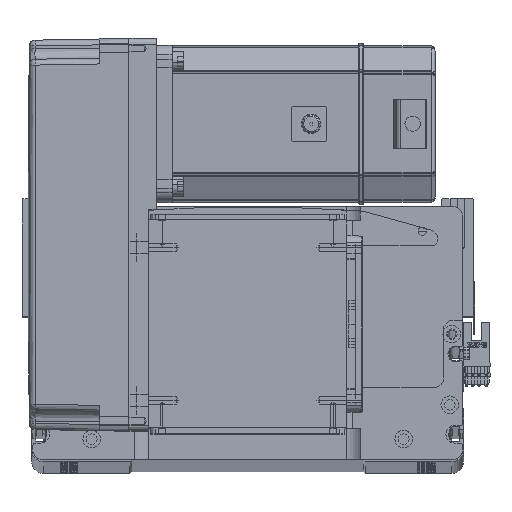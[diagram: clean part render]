
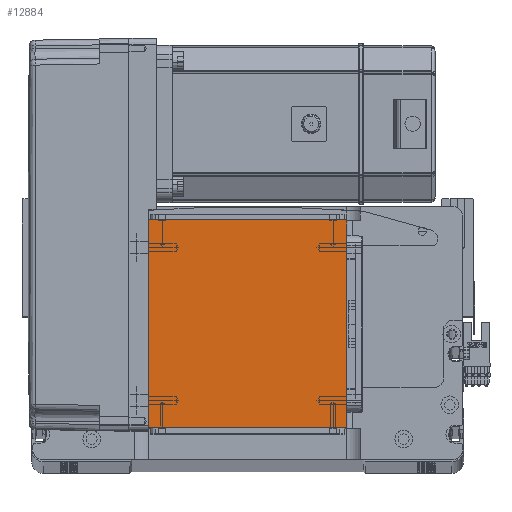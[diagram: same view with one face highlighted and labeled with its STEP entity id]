
A CAD part, top view. The second image highlights one B-rep face of the part: STEP entity #12884.
In plain terms, the highlighted planar face has unit normal (0, 0, 1).
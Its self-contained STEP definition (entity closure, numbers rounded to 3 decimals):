
#999 = VECTOR ( 'NONE', #43767, 1000. ) ;
#2976 = VERTEX_POINT ( 'NONE', #53306 ) ;
#4134 = AXIS2_PLACEMENT_3D ( 'NONE', #10514, #53972, #25735 ) ;
#5917 = FACE_OUTER_BOUND ( 'NONE', #47751, .T. ) ;
#8040 = DIRECTION ( 'NONE',  ( -1., 0., 0. ) ) ;
#9645 = LINE ( 'NONE', #16202, #43742 ) ;
#9753 = EDGE_CURVE ( 'NONE', #16257, #2976, #9645, .T. ) ;
#10363 = ORIENTED_EDGE ( 'NONE', *, *, #16987, .T. ) ;
#10514 = CARTESIAN_POINT ( 'NONE',  ( 0., 0., 115. ) ) ;
#12237 = ORIENTED_EDGE ( 'NONE', *, *, #34615, .T. ) ;
#12884 = ADVANCED_FACE ( 'NONE', ( #5917 ), #48670, .T. ) ;
#14573 = ORIENTED_EDGE ( 'NONE', *, *, #9753, .T. ) ;
#16014 = DIRECTION ( 'NONE',  ( 0., 1., 0. ) ) ;
#16154 = CARTESIAN_POINT ( 'NONE',  ( -50.5, 16., 115. ) ) ;
#16202 = CARTESIAN_POINT ( 'NONE',  ( 50.5, 122., 115. ) ) ;
#16257 = VERTEX_POINT ( 'NONE', #30725 ) ;
#16987 = EDGE_CURVE ( 'NONE', #36532, #56451, #23657, .T. ) ;
#17120 = ORIENTED_EDGE ( 'NONE', *, *, #54528, .T. ) ;
#17155 = VECTOR ( 'NONE', #8040, 1000. ) ;
#23657 = LINE ( 'NONE', #33520, #31610 ) ;
#25735 = DIRECTION ( 'NONE',  ( 1., 0., 0. ) ) ;
#30725 = CARTESIAN_POINT ( 'NONE',  ( 50.5, 16., 115. ) ) ;
#31610 = VECTOR ( 'NONE', #43025, 1000. ) ;
#33520 = CARTESIAN_POINT ( 'NONE',  ( -50.5, 122., 115. ) ) ;
#34361 = LINE ( 'NONE', #39291, #999 ) ;
#34615 = EDGE_CURVE ( 'NONE', #56451, #16257, #34361, .T. ) ;
#35829 = CARTESIAN_POINT ( 'NONE',  ( -50.5, 122., 115. ) ) ;
#36532 = VERTEX_POINT ( 'NONE', #36555 ) ;
#36555 = CARTESIAN_POINT ( 'NONE',  ( -50.5, 122., 115. ) ) ;
#38170 = LINE ( 'NONE', #35829, #17155 ) ;
#39291 = CARTESIAN_POINT ( 'NONE',  ( -50.5, 16., 115. ) ) ;
#43025 = DIRECTION ( 'NONE',  ( 0., -1., 0. ) ) ;
#43742 = VECTOR ( 'NONE', #16014, 1000. ) ;
#43767 = DIRECTION ( 'NONE',  ( 1., 0., 0. ) ) ;
#47751 = EDGE_LOOP ( 'NONE', ( #10363, #12237, #14573, #17120 ) ) ;
#48670 = PLANE ( 'NONE',  #4134 ) ;
#53306 = CARTESIAN_POINT ( 'NONE',  ( 50.5, 122., 115. ) ) ;
#53972 = DIRECTION ( 'NONE',  ( 0., 0., 1. ) ) ;
#54528 = EDGE_CURVE ( 'NONE', #2976, #36532, #38170, .T. ) ;
#56451 = VERTEX_POINT ( 'NONE', #16154 ) ;
